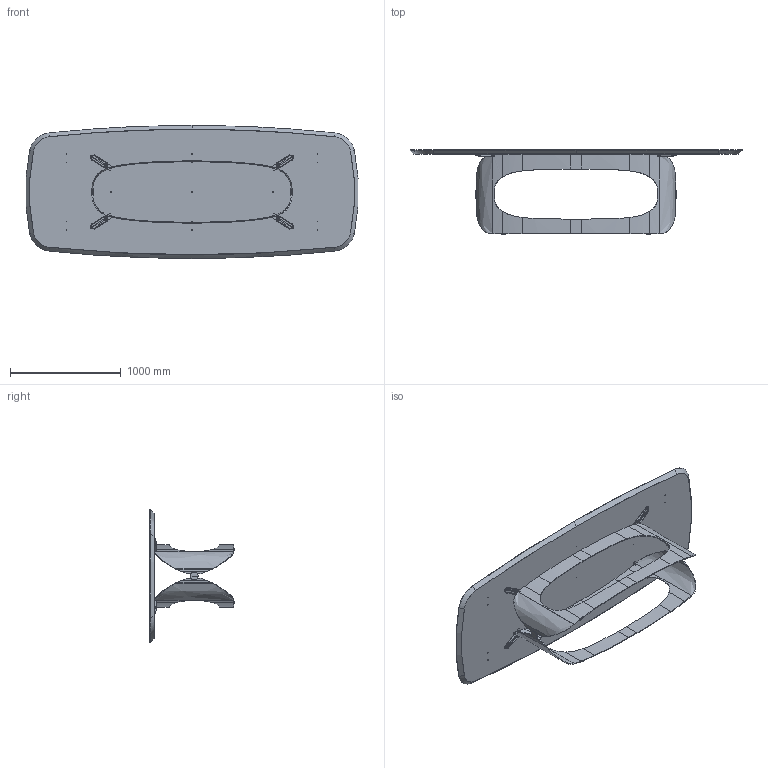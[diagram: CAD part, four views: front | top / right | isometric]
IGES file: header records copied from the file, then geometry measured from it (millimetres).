
Start section: SolidWorks IGES file using analytic representation for surfaces
Global section: file name: Y:\eforma\TECNICO\SOLIDWORKS\E-FORMA\1-TAVOLI\POLIFEMO\02 parts\PO44W_Polifemo_300x120_.IGS; native system: SolidWorks 2022; preprocessor: SolidWorks 2022; author: eforma.tech; date: 240806.161814; units: millimetre
Bounding box: 2991.72 x 759.97 x 1200 mm (x, y, z)
Volume: 132276551.8 mm3; surface area: 10186141.3 mm2
Topology: 41 solids, 41 shells, 1485 faces, 3930 edges, 2414 vertices
Faces by surface type: revolution 881, plane 404, bspline 200
